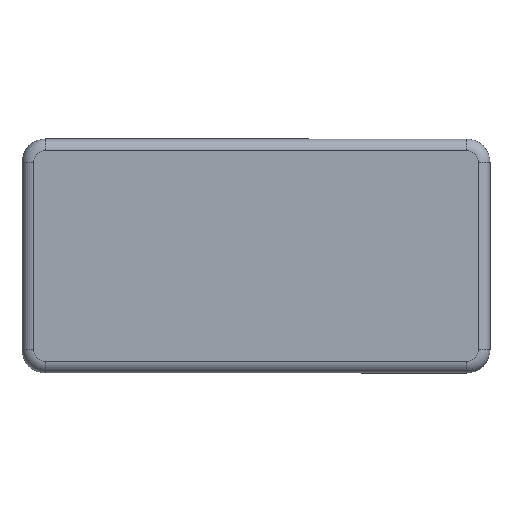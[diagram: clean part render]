
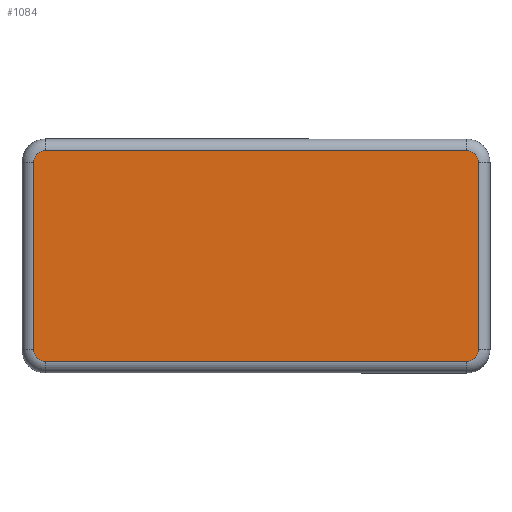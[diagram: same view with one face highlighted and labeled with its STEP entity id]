
A CAD part, front view. The second image highlights one B-rep face of the part: STEP entity #1084.
In plain terms, the highlighted planar face has unit normal (0, -1, 0).
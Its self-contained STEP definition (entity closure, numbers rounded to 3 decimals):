
#26 = DIRECTION ( 'NONE',  ( 0., -1., 0. ) ) ;
#54 = VECTOR ( 'NONE', #1098, 1000. ) ;
#69 = CARTESIAN_POINT ( 'NONE',  ( 0., -4., 0. ) ) ;
#74 = CARTESIAN_POINT ( 'NONE',  ( -18., -4., 8. ) ) ;
#86 = LINE ( 'NONE', #105, #54 ) ;
#105 = CARTESIAN_POINT ( 'NONE',  ( 19., -4., 8. ) ) ;
#108 = EDGE_CURVE ( 'NONE', #569, #791, #86, .T. ) ;
#136 = AXIS2_PLACEMENT_3D ( 'NONE', #599, #26, #677 ) ;
#163 = CARTESIAN_POINT ( 'NONE',  ( 18., -4., -8. ) ) ;
#173 = DIRECTION ( 'NONE',  ( 0., 0., 1. ) ) ;
#192 = EDGE_CURVE ( 'NONE', #791, #480, #1123, .T. ) ;
#208 = EDGE_CURVE ( 'NONE', #480, #720, #1120, .T. ) ;
#210 = DIRECTION ( 'NONE',  ( 0., -1., 0. ) ) ;
#216 = DIRECTION ( 'NONE',  ( 0., 0., -1. ) ) ;
#227 = EDGE_LOOP ( 'NONE', ( #732, #406, #1052, #566, #282, #941, #621, #284 ) ) ;
#251 = DIRECTION ( 'NONE',  ( 0., 0., 1. ) ) ;
#267 = CIRCLE ( 'NONE', #413, 1. ) ;
#280 = AXIS2_PLACEMENT_3D ( 'NONE', #69, #1072, #560 ) ;
#282 = ORIENTED_EDGE ( 'NONE', *, *, #108, .T. ) ;
#284 = ORIENTED_EDGE ( 'NONE', *, *, #1129, .T. ) ;
#286 = VERTEX_POINT ( 'NONE', #353 ) ;
#303 = CARTESIAN_POINT ( 'NONE',  ( 19., -4., 8. ) ) ;
#330 = CARTESIAN_POINT ( 'NONE',  ( 18., -4., -9. ) ) ;
#335 = CARTESIAN_POINT ( 'NONE',  ( -19., -4., 8. ) ) ;
#352 = FACE_OUTER_BOUND ( 'NONE', #227, .T. ) ;
#353 = CARTESIAN_POINT ( 'NONE',  ( -19., -4., -8. ) ) ;
#380 = CIRCLE ( 'NONE', #942, 1. ) ;
#381 = VERTEX_POINT ( 'NONE', #335 ) ;
#406 = ORIENTED_EDGE ( 'NONE', *, *, #858, .T. ) ;
#413 = AXIS2_PLACEMENT_3D ( 'NONE', #74, #740, #173 ) ;
#456 = LINE ( 'NONE', #1033, #474 ) ;
#474 = VECTOR ( 'NONE', #216, 1000. ) ;
#480 = VERTEX_POINT ( 'NONE', #696 ) ;
#487 = VERTEX_POINT ( 'NONE', #623 ) ;
#494 = VECTOR ( 'NONE', #792, 1000. ) ;
#506 = LINE ( 'NONE', #1043, #494 ) ;
#539 = CARTESIAN_POINT ( 'NONE',  ( -18., -4., 9. ) ) ;
#548 = CIRCLE ( 'NONE', #136, 1. ) ;
#560 = DIRECTION ( 'NONE',  ( 0., 0., 1. ) ) ;
#566 = ORIENTED_EDGE ( 'NONE', *, *, #1031, .T. ) ;
#569 = VERTEX_POINT ( 'NONE', #1063 ) ;
#599 = CARTESIAN_POINT ( 'NONE',  ( -18., -4., -8. ) ) ;
#621 = ORIENTED_EDGE ( 'NONE', *, *, #208, .T. ) ;
#623 = CARTESIAN_POINT ( 'NONE',  ( -18., -4., -9. ) ) ;
#654 = VERTEX_POINT ( 'NONE', #330 ) ;
#677 = DIRECTION ( 'NONE',  ( 0., 0., 1. ) ) ;
#696 = CARTESIAN_POINT ( 'NONE',  ( 18., -4., 9. ) ) ;
#697 = CARTESIAN_POINT ( 'NONE',  ( -18., -4., 9. ) ) ;
#720 = VERTEX_POINT ( 'NONE', #697 ) ;
#732 = ORIENTED_EDGE ( 'NONE', *, *, #927, .T. ) ;
#740 = DIRECTION ( 'NONE',  ( 0., -1., 0. ) ) ;
#777 = CARTESIAN_POINT ( 'NONE',  ( 18., -4., 8. ) ) ;
#791 = VERTEX_POINT ( 'NONE', #303 ) ;
#792 = DIRECTION ( 'NONE',  ( 1., 0., 0. ) ) ;
#816 = DIRECTION ( 'NONE',  ( 0., -1., 0. ) ) ;
#822 = PLANE ( 'NONE',  #280 ) ;
#857 = DIRECTION ( 'NONE',  ( 0., 0., 1. ) ) ;
#858 = EDGE_CURVE ( 'NONE', #286, #487, #548, .T. ) ;
#885 = EDGE_CURVE ( 'NONE', #487, #654, #506, .T. ) ;
#927 = EDGE_CURVE ( 'NONE', #381, #286, #456, .T. ) ;
#941 = ORIENTED_EDGE ( 'NONE', *, *, #192, .T. ) ;
#942 = AXIS2_PLACEMENT_3D ( 'NONE', #163, #816, #251 ) ;
#954 = DIRECTION ( 'NONE',  ( -1., 0., 0. ) ) ;
#1012 = AXIS2_PLACEMENT_3D ( 'NONE', #777, #210, #857 ) ;
#1031 = EDGE_CURVE ( 'NONE', #654, #569, #380, .T. ) ;
#1033 = CARTESIAN_POINT ( 'NONE',  ( -19., -4., -8. ) ) ;
#1043 = CARTESIAN_POINT ( 'NONE',  ( 18., -4., -9. ) ) ;
#1052 = ORIENTED_EDGE ( 'NONE', *, *, #885, .T. ) ;
#1063 = CARTESIAN_POINT ( 'NONE',  ( 19., -4., -8. ) ) ;
#1072 = DIRECTION ( 'NONE',  ( 0., 1., 0. ) ) ;
#1084 = ADVANCED_FACE ( 'NONE', ( #352 ), #822, .F. ) ;
#1098 = DIRECTION ( 'NONE',  ( 0., 0., 1. ) ) ;
#1107 = VECTOR ( 'NONE', #954, 1000. ) ;
#1120 = LINE ( 'NONE', #539, #1107 ) ;
#1123 = CIRCLE ( 'NONE', #1012, 1. ) ;
#1129 = EDGE_CURVE ( 'NONE', #720, #381, #267, .T. ) ;
